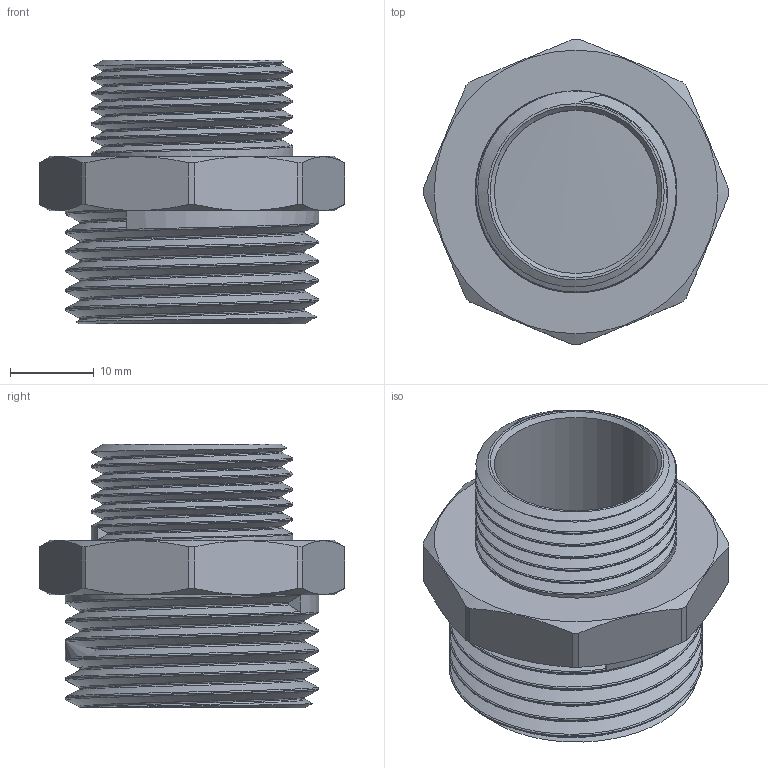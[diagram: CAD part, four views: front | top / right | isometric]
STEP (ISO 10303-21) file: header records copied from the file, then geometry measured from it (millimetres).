
FILE_DESCRIPTION(/* description */ (''),/* implementation_level */ '2;1');
FILE_NAME(/* name */ 'C:\Users\Doom\Desktop\Фадотех\Резьба\N12 18.03.2020\N12 18.03.2020.stp',/* time_stamp */ '2022-01-08T00:43:36+02:00',/* author */ ('Doom'),/* organization */ (''),/* preprocessor_version */ 'ST-DEVELOPER v18',/* originating_system */ 'Autodesk Inventor 2020',/* authorisation */ '');
FILE_SCHEMA (('AUTOMOTIVE_DESIGN { 1 0 10303 214 3 1 1 }'));
Length unit declared in the file: millimetre
Products named in the file (1): N12 18.03.2020
Bounding box: 36.5 x 36.5 x 31.5 mm (x, y, z)
Volume: 8773.7 mm3; surface area: 7672.1 mm2
Topology: 1 solids, 1 shells, 60 faces, 168 edges, 112 vertices
Faces by surface type: cylinder 27, plane 14, bspline 12, cone 7
Full cylindrical faces by diameter (mm): 19.5 x1, 24.11 x5, 24.2 x1, 30.29 x6
Entity records: 7914 total; most frequent: CARTESIAN_POINT 6460, ORIENTED_EDGE 336, DIRECTION 246, EDGE_CURVE 168, VERTEX_POINT 112, AXIS2_PLACEMENT_3D 99, EDGE_LOOP 64, FACE_OUTER_BOUND 60
